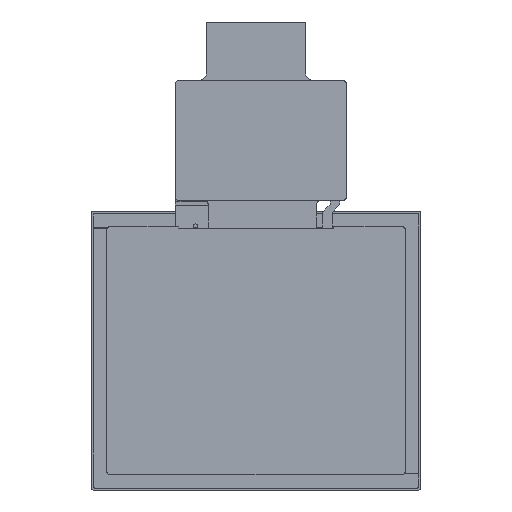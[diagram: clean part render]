
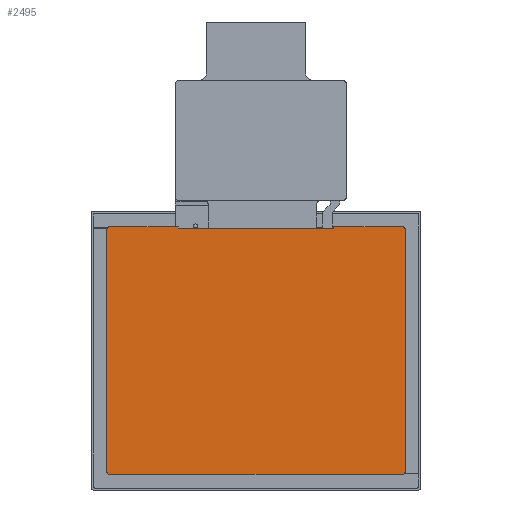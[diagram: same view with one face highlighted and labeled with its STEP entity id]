
A CAD part, front view. The second image highlights one B-rep face of the part: STEP entity #2495.
In plain terms, the highlighted planar face has unit normal (0, -1, 0).
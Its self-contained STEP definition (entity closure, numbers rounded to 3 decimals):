
#25=DIRECTION('',(1.,0.,0.));
#26=VECTOR('',#25,17.72);
#27=CARTESIAN_POINT('',(20.,-2.26,34.12));
#28=LINE('',#27,#26);
#29=CARTESIAN_POINT('',(37.72,-2.26,33.42));
#30=DIRECTION('',(0.,1.,0.));
#31=DIRECTION('',(0.,0.,1.));
#32=AXIS2_PLACEMENT_3D('',#29,#30,#31);
#34=DIRECTION('',(0.,0.,-1.));
#35=VECTOR('',#34,62.44);
#36=CARTESIAN_POINT('',(38.42,-2.26,33.42));
#37=LINE('',#36,#35);
#38=CARTESIAN_POINT('',(37.72,-2.26,-29.02));
#39=DIRECTION('',(0.,1.,0.));
#40=DIRECTION('',(1.,0.,0.));
#41=AXIS2_PLACEMENT_3D('',#38,#39,#40);
#43=DIRECTION('',(-1.,0.,0.));
#44=VECTOR('',#43,75.44);
#45=CARTESIAN_POINT('',(37.72,-2.26,-29.72));
#46=LINE('',#45,#44);
#47=CARTESIAN_POINT('',(-37.72,-2.26,-29.02));
#48=DIRECTION('',(0.,1.,0.));
#49=DIRECTION('',(0.,0.,-1.));
#50=AXIS2_PLACEMENT_3D('',#47,#48,#49);
#52=DIRECTION('',(0.,0.,1.));
#53=VECTOR('',#52,62.44);
#54=CARTESIAN_POINT('',(-38.42,-2.26,-29.02));
#55=LINE('',#54,#53);
#56=CARTESIAN_POINT('',(-37.72,-2.26,33.42));
#57=DIRECTION('',(0.,1.,0.));
#58=DIRECTION('',(-1.,0.,0.));
#59=AXIS2_PLACEMENT_3D('',#56,#57,#58);
#61=DIRECTION('',(1.,0.,0.));
#62=VECTOR('',#61,17.72);
#63=CARTESIAN_POINT('',(-37.72,-2.26,34.12));
#64=LINE('',#63,#62);
#65=DIRECTION('',(0.,0.,-1.));
#66=VECTOR('',#65,0.4);
#67=CARTESIAN_POINT('',(-20.,-2.26,34.12));
#68=LINE('',#67,#66);
#69=DIRECTION('',(1.,0.,0.));
#70=VECTOR('',#69,40.);
#71=CARTESIAN_POINT('',(-20.,-2.26,33.72));
#72=LINE('',#71,#70);
#73=DIRECTION('',(0.,0.,1.));
#74=VECTOR('',#73,0.4);
#75=CARTESIAN_POINT('',(20.,-2.26,33.72));
#76=LINE('',#75,#74);
#1883=CARTESIAN_POINT('',(20.,-2.26,34.12));
#1884=CARTESIAN_POINT('',(37.72,-2.26,34.12));
#1885=VERTEX_POINT('',#1883);
#1886=VERTEX_POINT('',#1884);
#1887=CARTESIAN_POINT('',(38.42,-2.26,33.42));
#1888=VERTEX_POINT('',#1887);
#1889=CARTESIAN_POINT('',(38.42,-2.26,-29.02));
#1890=VERTEX_POINT('',#1889);
#1891=CARTESIAN_POINT('',(37.72,-2.26,-29.72));
#1892=VERTEX_POINT('',#1891);
#1893=CARTESIAN_POINT('',(-37.72,-2.26,-29.72));
#1894=VERTEX_POINT('',#1893);
#1895=CARTESIAN_POINT('',(-38.42,-2.26,-29.02));
#1896=VERTEX_POINT('',#1895);
#1897=CARTESIAN_POINT('',(-38.42,-2.26,33.42));
#1898=VERTEX_POINT('',#1897);
#1899=CARTESIAN_POINT('',(-37.72,-2.26,34.12));
#1900=VERTEX_POINT('',#1899);
#1901=CARTESIAN_POINT('',(-20.,-2.26,34.12));
#1902=VERTEX_POINT('',#1901);
#1903=CARTESIAN_POINT('',(-20.,-2.26,33.72));
#1904=VERTEX_POINT('',#1903);
#1905=CARTESIAN_POINT('',(20.,-2.26,33.72));
#1906=VERTEX_POINT('',#1905);
#2464=CARTESIAN_POINT('',(0.,-2.26,0.));
#2465=DIRECTION('',(0.,1.,0.));
#2466=DIRECTION('',(1.,0.,0.));
#2467=AXIS2_PLACEMENT_3D('',#2464,#2465,#2466);
#2468=PLANE('',#2467);
#2470=ORIENTED_EDGE('',*,*,#2469,.T.);
#2472=ORIENTED_EDGE('',*,*,#2471,.T.);
#2474=ORIENTED_EDGE('',*,*,#2473,.T.);
#2476=ORIENTED_EDGE('',*,*,#2475,.T.);
#2478=ORIENTED_EDGE('',*,*,#2477,.T.);
#2480=ORIENTED_EDGE('',*,*,#2479,.T.);
#2482=ORIENTED_EDGE('',*,*,#2481,.T.);
#2484=ORIENTED_EDGE('',*,*,#2483,.T.);
#2486=ORIENTED_EDGE('',*,*,#2485,.T.);
#2488=ORIENTED_EDGE('',*,*,#2487,.T.);
#2490=ORIENTED_EDGE('',*,*,#2489,.T.);
#2492=ORIENTED_EDGE('',*,*,#2491,.T.);
#2493=EDGE_LOOP('',(#2470,#2472,#2474,#2476,#2478,#2480,#2482,#2484,#2486,#2488,
#2490,#2492));
#2494=FACE_OUTER_BOUND('',#2493,.F.);
#33=CIRCLE('',#32,0.7);
#42=CIRCLE('',#41,0.7);
#51=CIRCLE('',#50,0.7);
#60=CIRCLE('',#59,0.7);
#2469=EDGE_CURVE('',#1885,#1886,#28,.T.);
#2471=EDGE_CURVE('',#1886,#1888,#33,.T.);
#2473=EDGE_CURVE('',#1888,#1890,#37,.T.);
#2475=EDGE_CURVE('',#1890,#1892,#42,.T.);
#2477=EDGE_CURVE('',#1892,#1894,#46,.T.);
#2479=EDGE_CURVE('',#1894,#1896,#51,.T.);
#2481=EDGE_CURVE('',#1896,#1898,#55,.T.);
#2483=EDGE_CURVE('',#1898,#1900,#60,.T.);
#2485=EDGE_CURVE('',#1900,#1902,#64,.T.);
#2487=EDGE_CURVE('',#1902,#1904,#68,.T.);
#2489=EDGE_CURVE('',#1904,#1906,#72,.T.);
#2491=EDGE_CURVE('',#1906,#1885,#76,.T.);
#2495=ADVANCED_FACE('',(#2494),#2468,.F.);
